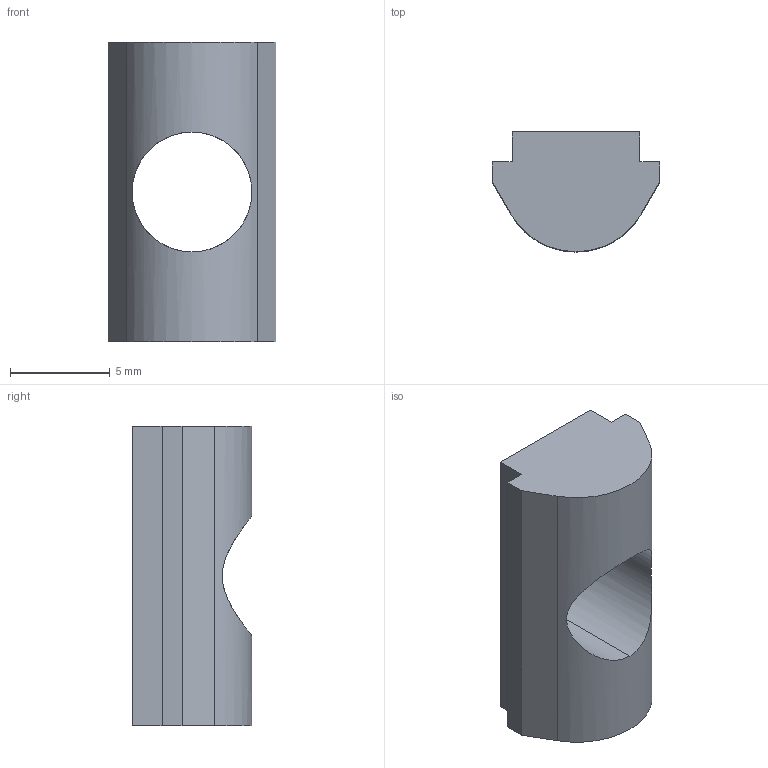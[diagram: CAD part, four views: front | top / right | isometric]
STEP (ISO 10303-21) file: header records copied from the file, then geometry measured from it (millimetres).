
FILE_DESCRIPTION (( 'STEP AP203' ), '1' );
FILE_NAME ('EN06M6.STEP', '2024-02-17T07:11:21', ( '' ), ( '' ), 'SwSTEP 2.0', 'SolidWorks 2022', '' );
FILE_SCHEMA (( 'CONFIG_CONTROL_DESIGN' ));
Length unit declared in the file: millimetre
Products named in the file (1): EN06M6
Bounding box: 8.4 x 6 x 15 mm (x, y, z)
Volume: 421.7 mm3; surface area: 493.5 mm2
Topology: 1 solids, 1 shells, 14 faces, 36 edges, 24 vertices
Faces by surface type: plane 11, cylinder 3
Entity records: 639 total; most frequent: CARTESIAN_POINT 213, ORIENTED_EDGE 72, DIRECTION 68, EDGE_CURVE 36, VECTOR 30, LINE 30, VERTEX_POINT 24, AXIS2_PLACEMENT_3D 19
